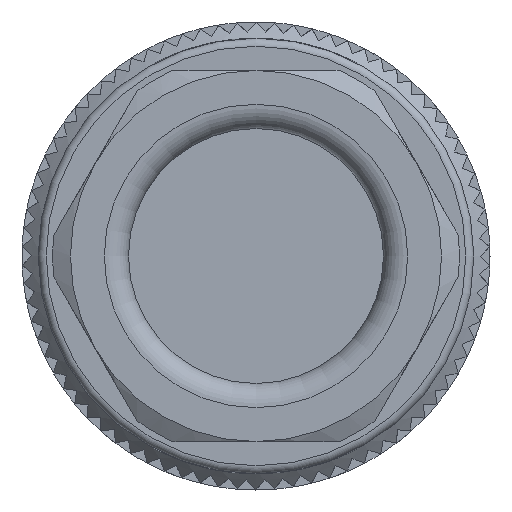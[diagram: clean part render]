
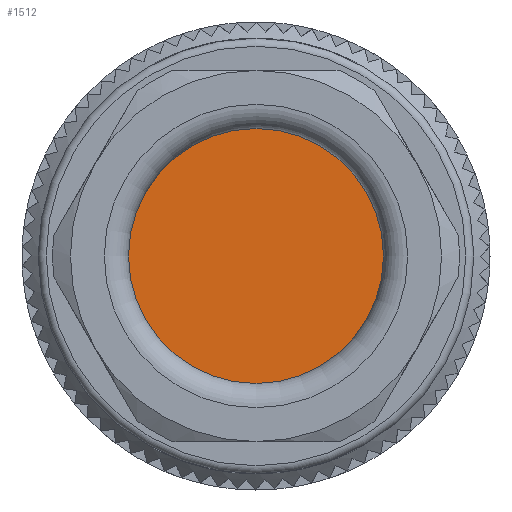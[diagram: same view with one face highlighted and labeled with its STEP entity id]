
A CAD part, left-side view. The second image highlights one B-rep face of the part: STEP entity #1512.
In plain terms, the highlighted planar face has unit normal (-1, 0, 0).
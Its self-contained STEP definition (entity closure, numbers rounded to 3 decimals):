
#296=FACE_OUTER_BOUND('',#2000,.T.);
#1249=PLANE('',#5260);
#1512=ADVANCED_FACE('',(#296),#1249,.T.);
#1614=CIRCLE('',#5213,7.9);
#2000=EDGE_LOOP('',(#3694));
#3694=ORIENTED_EDGE('',*,*,#4845,.T.);
#4149=VERTEX_POINT('',#11490);
#4845=EDGE_CURVE('',#4149,#4149,#1614,.T.);
#5213=AXIS2_PLACEMENT_3D('',#11489,#6209,#6210);
#5260=AXIS2_PLACEMENT_3D('',#14664,#6322,#6323);
#6209=DIRECTION('',(-1.,0.,0.));
#6210=DIRECTION('',(0.,0.,1.));
#6322=DIRECTION('',(-1.,0.,0.));
#6323=DIRECTION('',(0.,1.,0.));
#11489=CARTESIAN_POINT('',(-59.3,0.,0.));
#11490=CARTESIAN_POINT('',(-59.3,0.,7.9));
#14664=CARTESIAN_POINT('',(-59.3,0.,0.));
